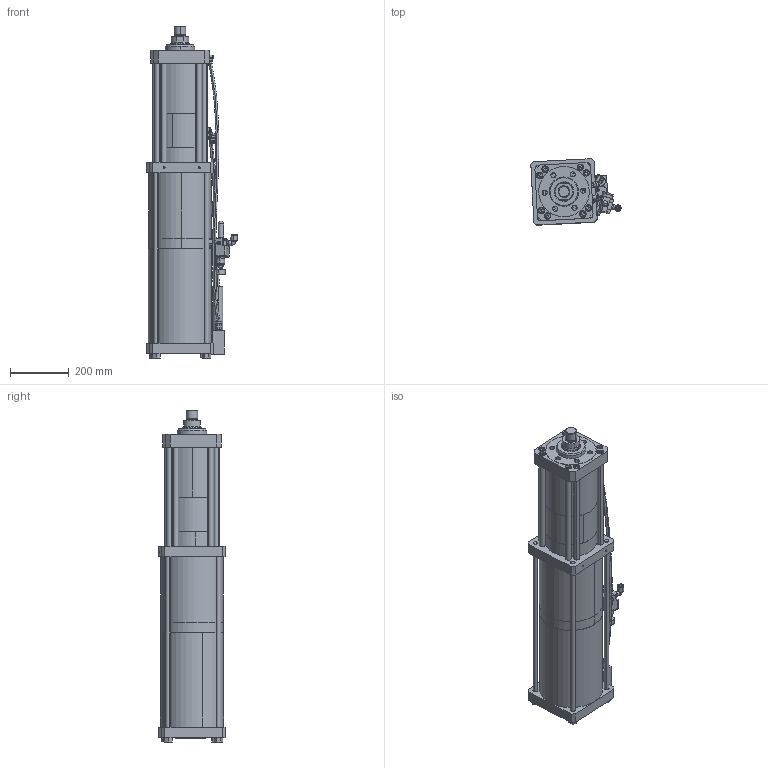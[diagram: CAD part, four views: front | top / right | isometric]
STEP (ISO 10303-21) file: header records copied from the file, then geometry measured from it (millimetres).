
FILE_DESCRIPTION (( 'STEP AP203' ), '1' );
FILE_NAME ('BS30-100-12A.step', '2025-07-31T09:40:16', ( 'Ranlm' ), ( '' ), 'SwSTEP 2.0', 'SolidWorks 2022', '' );
FILE_SCHEMA (( 'CONFIG_CONTROL_DESIGN' ));
Length unit declared in the file: millimetre
Products named in the file (1): BS30-100-12A
Bounding box: 307.89 x 226.01 x 1132 mm (x, y, z)
Surface area: 1425872.1 mm2 (no closed solid volume)
Topology: 0 solids, 81 shells, 774 faces, 2172 edges, 1482 vertices
Faces by surface type: plane 369, cylinder 270, cone 64, torus 52, bspline 16, sphere 3
Entity records: 27850 total; most frequent: CARTESIAN_POINT 7602, DIRECTION 4485, ORIENTED_EDGE 3605, EDGE_CURVE 2162, AXIS2_PLACEMENT_3D 1712, VERTEX_POINT 1479, VECTOR 1061, LINE 1061
